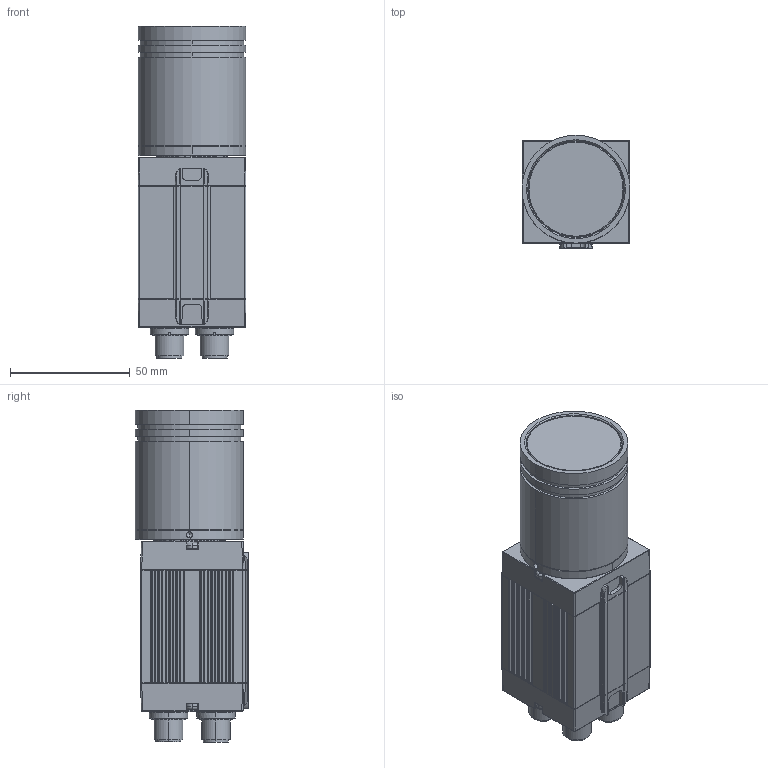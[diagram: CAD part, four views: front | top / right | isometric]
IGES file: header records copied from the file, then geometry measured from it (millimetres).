
Global section: file name: U://541397; native system: SolidDesigner 12.01C  26-Mar-2004; preprocessor: OneSpace IGES_3D V1.1; author: Unknown; organization: Unknown; date: 20050922.110015; units: millimetre
Bounding box: 45 x 47.15 x 138.4 mm (x, y, z)
Volume: 83419.8 mm3; surface area: 77978.8 mm2
Topology: 69 solids, 69 shells, 2357 faces, 6074 edges, 3942 vertices
Faces by surface type: bspline 2357
